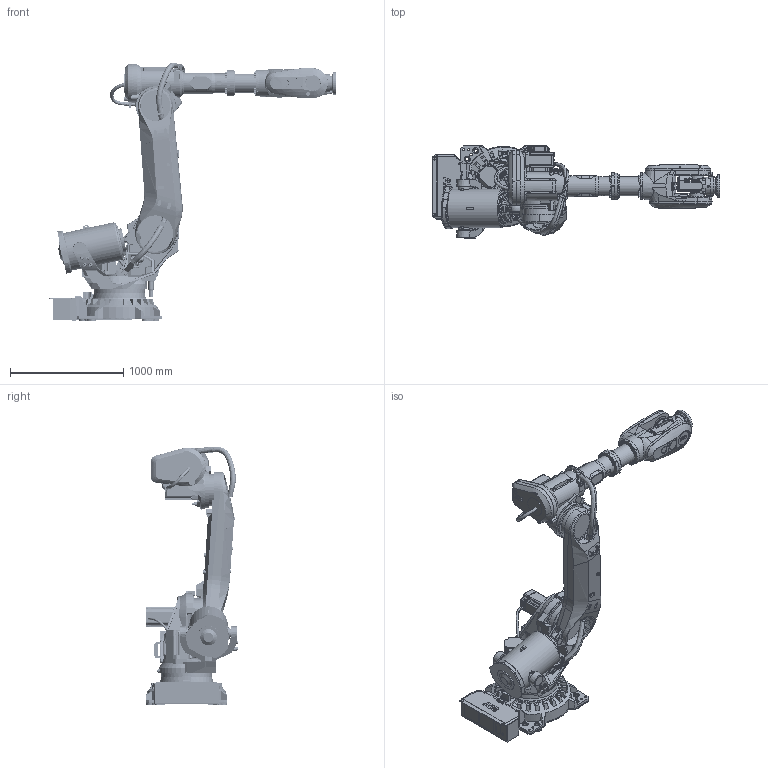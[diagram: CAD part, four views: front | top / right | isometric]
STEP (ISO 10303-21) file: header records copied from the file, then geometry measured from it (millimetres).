
FILE_DESCRIPTION(/* description */ (''),/* implementation_level */ '2;1');
FILE_NAME(/* name */ 'E:\组装完成的图纸\IRB 6700\IRB 6700-155-2.85\IRB 6700-155-2.85.stp',/* time_stamp */ '2023-11-04T18:37:54+08:00',/* author */ ('Administrator'),/* organization */ (''),/* preprocessor_version */ 'ST-DEVELOPER v16.5',/* originating_system */ 'Autodesk Inventor 2017',/* authorisation */ '');
FILE_SCHEMA (('AUTOMOTIVE_DESIGN { 1 0 10303 214 3 1 1 }'));
Products named in the file (16): 部件16; IRB6700_155-285_IRC5_rev00_CYLINDER_CAD; IRB6700_155-285_IRC5_rev00_LINK02m_CABLE; IRB6700_155-285_IRC5_rev00_LOGO1_CAD; IRB6700_155-285_IRC5_rev00_LOGO2_CAD; IRB6700_155-285_IRC5_rev00_LOGO3_CAD; IRB6700_155-285_IRC5_rev00_ROD_CAD; IRB6700_155-285_IRC5_rev01_LINK01m_CABLE; IRB6700_155-285_IRC5_rev01_LINK02_CAD; IRB6700_155-285_IRC5_rev01_LINK04_CAD; IRB6700_155-285_IRC5_rev01_LINK06_CAD; IRB6700_155-285_IRC5_rev02_BASE_CAD; IRB6700_155-285_IRC5_rev02_LINK03_CAD; IRB6700_155-285_IRC5_rev02_LINK03m_CABLE; IRB6700_155-285_IRC5_rev02_LINK05_CAD; IRB6700_155-285_IRC5_rev03_LINK01_CAD
Assembly tree (15 placements, depth 2):
  部件16
    IRB6700_155-285_IRC5_rev00_CYLINDER_CAD
    IRB6700_155-285_IRC5_rev00_LINK02m_CABLE
    IRB6700_155-285_IRC5_rev00_LOGO1_CAD
    IRB6700_155-285_IRC5_rev00_LOGO2_CAD
    IRB6700_155-285_IRC5_rev00_LOGO3_CAD
    IRB6700_155-285_IRC5_rev00_ROD_CAD
    IRB6700_155-285_IRC5_rev01_LINK01m_CABLE
    IRB6700_155-285_IRC5_rev01_LINK02_CAD
    IRB6700_155-285_IRC5_rev01_LINK04_CAD
    IRB6700_155-285_IRC5_rev01_LINK06_CAD
    IRB6700_155-285_IRC5_rev02_BASE_CAD
    IRB6700_155-285_IRC5_rev02_LINK03_CAD
    IRB6700_155-285_IRC5_rev02_LINK03m_CABLE
    IRB6700_155-285_IRC5_rev02_LINK05_CAD
    IRB6700_155-285_IRC5_rev03_LINK01_CAD
Bounding box: 2539.5 x 816 x 2287.51 mm (x, y, z)
Volume: 315427470.7 mm3; surface area: 12962232 mm2
Topology: 16 solids, 23 shells, 5362 faces, 14143 edges, 9190 vertices
Faces by surface type: plane 3369, cylinder 1106, cone 484, bspline 377, torus 21, sphere 5
Full cylindrical faces by diameter (mm): 3.3 x1, 5 x17, 6 x14, 6.5 x8, 6.6 x9, 6.8 x12, 7 x16, 7.1 x2, 7.5 x8, 8 x4, 8.3 x4, 8.5 x6, 8.6 x4, 8.8 x4, 9 x5, 9.5 x14, 10 x4, 10.2 x40, 10.8 x1, 11.05 x4, 12 x1, 12.5 x2, 13 x5, 14 x1, 15.5 x1, 16 x4, 16.3 x1, 17 x4, 17.5 x8, 17.583 x1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
Entity records: 235034 total; most frequent: CARTESIAN_POINT 105710, ORIENTED_EDGE 26802, DIRECTION 25271, EDGE_CURVE 13401, VERTEX_POINT 9024, AXIS2_PLACEMENT_3D 8566, LINE 8139, VECTOR 8139
